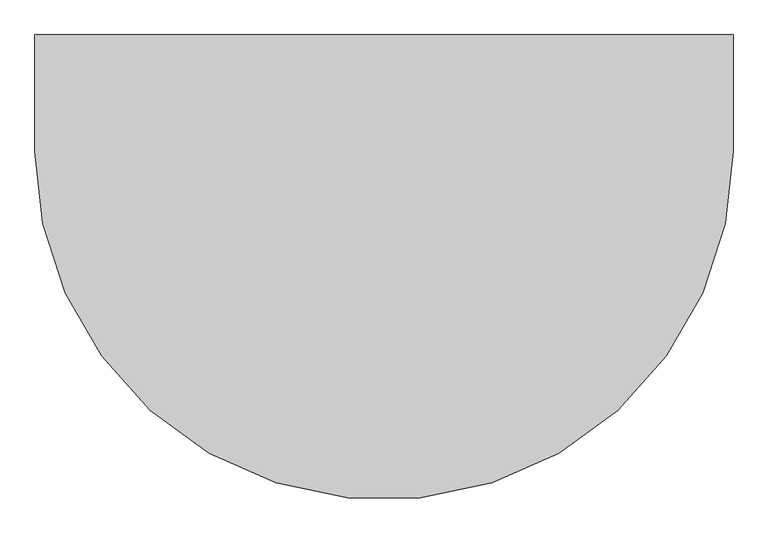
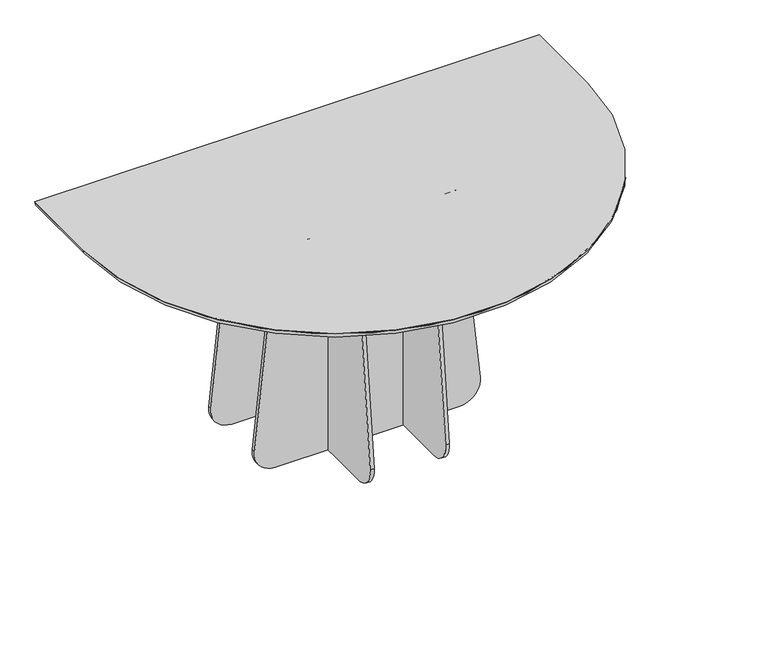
"""IFC4 building model written with IfcOpenShell, lengths in millimetres: furniture geometry, Lundbergs Möbler - Funghi Mèta - Table - Half Moon - 180 - H90 : Lundbergs Möbler - Funghi Mèta - Table - Half Moon - 180 - H90."""

from ifc_helpers import new_model, si_unit, point, frame, frame_2d, origin, place, context, project, spatial, polyline, circle_curve, ellipse_curve, trimmed, segment, composite_curve, outline, extrude, source, transform, mapped, element, save
from ifc_brep_helpers import plane_surface, cylinder_surface, revolved_surface, advanced_brep


def furniture_b316d67d(model_context):
    return source(origin(), model_context, "Body", "SolidModel", [
        advanced_brep(
        [(899.9999872, 356.1679038, 900.0), (899.9999872, 356.1679038, 898.4429462), (877.6980213, 356.1679038, 876.1409804), (-877.6979684, 356.1679038, 876.1409804), (-899.9999342, 356.1679038, 898.4429462), (-899.9999342, 356.1679038, 900.0), (-899.9999342, 56.0832467, 900.0), (899.9999872, 56.0832467, 900.0), (899.9999872, 56.0832467, 898.4429462), (877.6980213, 56.0832467, 876.1409804), (-877.6979684, 56.0832467, 876.1409804), (-899.9999342, 56.0832467, 898.4429462)],
        [
            (0, 1),
            (1, 2, circle_curve(frame((877.6980213, 356.1679038, 898.4429462), z_axis=(0.0, 1.0, 0.0), x_axis=(1.0, 0.0, 0.0)), 22.3019658)),
            (2, 3),
            (3, 4, circle_curve(frame((-877.6979684, 356.1679038, 898.4429462), z_axis=(0.0, 1.0, 0.0), x_axis=(-1.0, 0.0, 0.0)), 22.3019658)),
            (4, 5),
            (5, 0),
            (5, 6),
            (6, 7, circle_curve(frame((2.65e-05, 56.0832467, 900.0), z_axis=(0.0, 0.0, 1.0), x_axis=(1.0, 0.0, 0.0)), 899.9999607)),
            (7, 0),
            (7, 8),
            (8, 1),
            (8, 9, circle_curve(frame((877.6980213, 56.0832467, 898.4429462), z_axis=(0.0, 1.0, 0.0), x_axis=(1.0, 0.0, 0.0)), 22.3019658)),
            (9, 2),
            (9, 10, circle_curve(frame((2.65e-05, 56.0832467, 876.1409804), z_axis=(0.0, 0.0, -1.0), x_axis=(1.0, 0.0, 0.0)), 877.6979949)),
            (10, 3),
            (6, 11),
            (11, 8, circle_curve(frame((2.65e-05, 56.0832467, 898.4429462), z_axis=(0.0, 0.0, 1.0), x_axis=(1.0, 0.0, 0.0)), 899.9999607)),
            (11, 10, circle_curve(frame((-877.6979684, 56.0832467, 898.4429462), z_axis=(0.0, -1.0, 0.0), x_axis=(-1.0, 0.0, 0.0)), 22.3019658)),
            (4, 11),
        ],
        [
            plane_surface(frame((899.9999872, 356.1679038, 176.0368389), z_axis=(0.0, 1.0, 0.0), x_axis=(0.0, 0.0, 1.0))),
            plane_surface(frame((712.358192, 356.1679038, 900.0), z_axis=(0.0, 0.0, 1.0), x_axis=(0.0, -1.0, 0.0))),
            plane_surface(frame((899.9999872, 356.1679038, 900.0), z_axis=(1.0, 0.0, 0.0), x_axis=(0.0, -1.0, 0.0))),
            cylinder_surface(frame((877.6980213, 356.1679038, 898.4429462), z_axis=(0.0, 1.0, 0.0), x_axis=(1.0, 0.0, 0.0)), 22.3019658),
            plane_surface(frame((877.6980213, 356.1679038, 876.1409804), z_axis=(0.0, 0.0, -1.0), x_axis=(0.0, -1.0, 0.0))),
            cylinder_surface(frame((2.65e-05, 56.0832467, 176.0368389), z_axis=(0.0, 0.0, -1.0), x_axis=(1.0, 0.0, 0.0)), 899.9999607),
            revolved_surface(trimmed(ellipse_curve(frame((877.6980213, 56.0832467, 898.4429462), z_axis=(0.0, 1.0, 0.0), x_axis=(1.0, 0.0, 0.0)), 22.3019658, 22.3019658), [point((899.9999872, 56.0832467, 898.4429462))], [point((877.6980213, 56.0832467, 876.1409804))], True, "CARTESIAN"), (2.65e-05, 56.0832467, 176.0368389), (0.0, 0.0, -1.0)),
            plane_surface(frame((-899.9999342, 56.0832467, 900.0), z_axis=(-1.0, 0.0, 0.0), x_axis=(0.0, 1.0, 0.0))),
            cylinder_surface(frame((-877.6979684, 56.0832467, 898.4429462), z_axis=(0.0, -1.0, 0.0), x_axis=(-1.0, 0.0, 0.0)), 22.3019658),
        ],
        [
            (0, [[1, 2, 3, 4, 5, 6]]),
            (1, [[-6, 7, 8, 9]]),
            (2, [[-1, -9, 10, 11]]),
            (3, [[-2, -11, 12, 13]]),
            (4, [[-3, -13, 14, 15]]),
            (5, [[-8, 16, 17, -10]]),
            (6, [[-12, -17, 18, -14]]),
            (7, [[-7, -5, 19, -16]]),
            (8, [[-15, -18, -19, -4]]),
        ],
    ),
        extrude(outline(composite_curve([segment(trimmed(circle_curve(frame_2d((-328.9885604, 75.0)), 75.0), [point((-328.9885604, 0.0))], [point((-403.5717494, 82.8960696))], False, "CARTESIAN"), True, "CONTINUOUS"), segment(polyline([(-403.5717494, 82.8960696), (-319.5914705, 876.1409804), (338.722675, 876.1409804), (338.722675, 0.0), (-328.9885604, 0.0)]), True, "CONTINUOUS")], self_intersect=False)), frame((-141.1465138, 0.0, 0.0), z_axis=(1.0, 0.0, 0.0), x_axis=(0.0, 1.0, 0.0)), (0.0, 0.0, 1.0), 13.4999997),
        extrude(outline(composite_curve([segment(trimmed(circle_curve(frame_2d((-328.9885604, 75.0)), 75.0), [point((-328.9885604, 0.0))], [point((-403.5717494, 82.8960696))], False, "CARTESIAN"), True, "CONTINUOUS"), segment(polyline([(-403.5717494, 82.8960696), (-319.5914705, 876.1409804), (338.722675, 876.1409804), (338.722675, 0.0), (-328.9885604, 0.0)]), True, "CONTINUOUS")], self_intersect=False)), frame((127.6465142, 0.0, 0.0), z_axis=(1.0, 0.0, 0.0), x_axis=(0.0, 1.0, 0.0)), (0.0, 0.0, 1.0), 13.4999997),
        extrude(outline(composite_curve([segment(trimmed(circle_curve(frame_2d((874.5279988, 196.2845895)), 8.5), [point((866.0279988, 196.2845895))], [point((874.5279988, 204.7845895))], False, "CARTESIAN"), True, "CONTINUOUS"), segment(polyline([(874.5279988, 204.7845895), (876.1409804, 204.7845895), (876.1409804, -204.7845895), (874.5279988, -204.7845895)]), True, "CONTINUOUS"), segment(trimmed(circle_curve(frame_2d((874.5279988, -196.2845895)), 8.5), [point((874.5279988, -204.7845895))], [point((866.0279988, -196.2845895))], False, "CARTESIAN"), True, "CONTINUOUS"), segment(polyline([(866.0279988, -196.2845895), (866.0279988, 196.2845895)]), True, "CONTINUOUS")], self_intersect=False)), frame((0.0, 242.5896085, 0.0), z_axis=(0.0, 1.0, 0.0), x_axis=(0.0, 0.0, 1.0)), (0.0, 0.0, 1.0), 40.0000216),
        extrude(outline(composite_curve([segment(trimmed(circle_curve(frame_2d((-196.2845895, 874.5279988)), 8.5), [point((-196.2845895, 866.0279988))], [point((-204.7845895, 874.5279988))], False, "CARTESIAN"), True, "CONTINUOUS"), segment(polyline([(-204.7845895, 874.5279988), (-204.7845895, 876.1409804), (204.7845895, 876.1409804), (204.7845895, 874.5279988)]), True, "CONTINUOUS"), segment(trimmed(circle_curve(frame_2d((196.2845895, 874.5279988)), 8.5), [point((204.7845895, 874.5279988))], [point((196.2845895, 866.0279988))], False, "CARTESIAN"), True, "CONTINUOUS"), segment(polyline([(196.2845895, 866.0279988), (-196.2845895, 866.0279988)]), True, "CONTINUOUS")], self_intersect=False)), frame((242.5896085, 0.0, 0.0), z_axis=(1.0, 0.0, 0.0), x_axis=(0.0, 1.0, 0.0)), (0.0, 0.0, 1.0), 40.0000216),
        extrude(outline(composite_curve([segment(trimmed(circle_curve(frame_2d((-196.2845895, 874.5279988)), 8.5), [point((-196.2845895, 866.0279988))], [point((-204.7845895, 874.5279988))], False, "CARTESIAN"), True, "CONTINUOUS"), segment(polyline([(-204.7845895, 874.5279988), (-204.7845895, 876.1409804), (204.7845895, 876.1409804), (204.7845895, 874.5279988)]), True, "CONTINUOUS"), segment(trimmed(circle_curve(frame_2d((196.2845895, 874.5279988)), 8.5), [point((204.7845895, 874.5279988))], [point((196.2845895, 866.0279988))], False, "CARTESIAN"), True, "CONTINUOUS"), segment(polyline([(196.2845895, 866.0279988), (-196.2845895, 866.0279988)]), True, "CONTINUOUS")], self_intersect=False)), frame((-282.5896301, 0.0, 0.0), z_axis=(1.0, 0.0, 0.0), x_axis=(0.0, 1.0, 0.0)), (0.0, 0.0, 1.0), 40.0000216),
        extrude(outline(composite_curve([segment(trimmed(circle_curve(frame_2d((874.5279988, 196.2845895)), 8.5), [point((866.0279988, 196.2845895))], [point((874.5279988, 204.7845895))], False, "CARTESIAN"), True, "CONTINUOUS"), segment(polyline([(874.5279988, 204.7845895), (876.1409804, 204.7845895), (876.1409804, -204.7845895), (874.5279988, -204.7845895)]), True, "CONTINUOUS"), segment(trimmed(circle_curve(frame_2d((874.5279988, -196.2845895)), 8.5), [point((874.5279988, -204.7845895))], [point((866.0279988, -196.2845895))], False, "CARTESIAN"), True, "CONTINUOUS"), segment(polyline([(866.0279988, -196.2845895), (866.0279988, 196.2845895)]), True, "CONTINUOUS")], self_intersect=False)), frame((0.0, -282.5896301, 0.0), z_axis=(0.0, 1.0, 0.0), x_axis=(0.0, 0.0, 1.0)), (0.0, 0.0, 1.0), 40.0000216),
        extrude(outline(composite_curve([segment(trimmed(circle_curve(frame_2d((75.0, -328.9885604)), 75.0), [point((82.8960696, -403.5717494))], [point((0.0, -328.9885604))], False, "CARTESIAN"), True, "CONTINUOUS"), segment(polyline([(0.0, -328.9885604), (0.0, 328.9885604)]), True, "CONTINUOUS"), segment(trimmed(circle_curve(frame_2d((75.0, 328.9885604)), 75.0), [point((0.0, 328.9885604))], [point((82.8960696, 403.5717494))], False, "CARTESIAN"), True, "CONTINUOUS"), segment(polyline([(82.8960696, 403.5717494), (876.1409804, 319.5914705), (876.1409804, -319.5914705), (82.8960696, -403.5717494)]), True, "CONTINUOUS")], self_intersect=False)), frame((0.0, 127.6465142, 0.0), z_axis=(0.0, 1.0, 0.0), x_axis=(0.0, 0.0, 1.0)), (0.0, 0.0, 1.0), 13.4999997),
        extrude(outline(composite_curve([segment(trimmed(circle_curve(frame_2d((75.0, -328.9885604)), 75.0), [point((82.8960696, -403.5717494))], [point((0.0, -328.9885604))], False, "CARTESIAN"), True, "CONTINUOUS"), segment(polyline([(0.0, -328.9885604), (0.0, 328.9885604)]), True, "CONTINUOUS"), segment(trimmed(circle_curve(frame_2d((75.0, 328.9885604)), 75.0), [point((0.0, 328.9885604))], [point((82.8960696, 403.5717494))], False, "CARTESIAN"), True, "CONTINUOUS"), segment(polyline([(82.8960696, 403.5717494), (876.1409804, 319.5914705), (876.1409804, -319.5914705), (82.8960696, -403.5717494)]), True, "CONTINUOUS")], self_intersect=False)), frame((0.0, -141.1465138, 0.0), z_axis=(0.0, 1.0, 0.0), x_axis=(0.0, 0.0, 1.0)), (0.0, 0.0, 1.0), 13.4999997),
    ])


if __name__ == "__main__":
    model = new_model("IFC4")
    model_context = context("Model", 3, world=origin())
    ifc_project = project(units=[si_unit("LENGTHUNIT", "METRE", prefix="MILLI")], contexts=[model_context])
    site = spatial("IfcSite", under=ifc_project)
    building = spatial("IfcBuilding", under=site)
    placement = place(None, origin())
    furniture_shape = furniture_b316d67d(model_context)
    element("IfcFurniture", 1, ObjectType="Lundbergs Möbler - Funghi Mèta - Table - Half Moon - 180 - H90 : Lundbergs Möbler - Funghi Mèta - Table - Half Moon - 180 - H90", at=placement, inside=building, context=model_context, shape_type="MappedRepresentation", body=[
        mapped(furniture_shape, transform((0.0, 0.0, 0.0), x_axis=(1.0, 0.0, 0.0), y_axis=(0.0, 1.0, 0.0), z_axis=(0.0, 0.0, 1.0))),
    ])
    save(model, "model.ifc")
